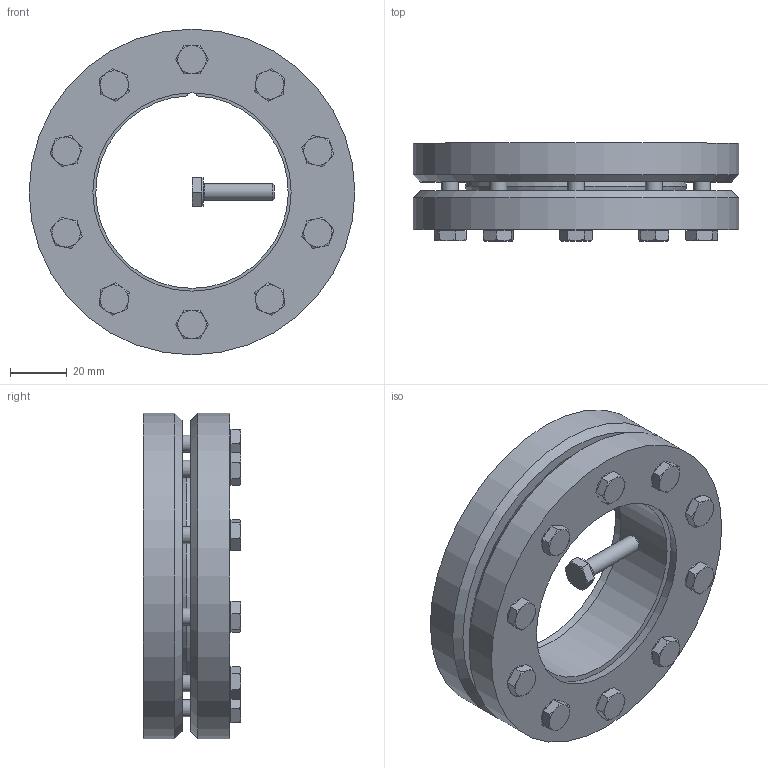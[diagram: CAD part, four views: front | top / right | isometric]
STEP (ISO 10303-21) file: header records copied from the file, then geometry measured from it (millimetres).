
FILE_DESCRIPTION( ( 'Unknown' ), '1' );
FILE_NAME( 'C:/Dokumente und Einstellungen/Sven/Desktop/homepage/cad - homepage/KBS19/KBS 19 - 68 x 115.stp', 'Unknown', ( 'Unknown' ), ( 'Unknown' ), 'XStep 1.0', 'Unknown', ' ' );
FILE_SCHEMA( ( 'automotive_design' ) );
Length unit declared in the file: millimetre
Products named in the file (3): Assem1; KBS 19 - 68 x 115; ISO 4017 - M6 x 25-N
Bounding box: 115 x 34.5 x 115 mm (x, y, z)
Volume: 363607.1 mm3; surface area: 99956.2 mm2
Topology: 13 solids, 13 shells, 361 faces, 844 edges, 520 vertices
Faces by surface type: plane 193, cone 89, cylinder 68, torus 11
Full cylindrical faces by diameter (mm): 6 x51, 10 x11, 115 x4
Entity records: 2388 total; most frequent: CARTESIAN_POINT 363, DIRECTION 354, ORIENTED_EDGE 268, AXIS2_PLACEMENT_3D 156, EDGE_LOOP 143, EDGE_CURVE 134, VERTEX_POINT 101, FACE_OUTER_BOUND 93
